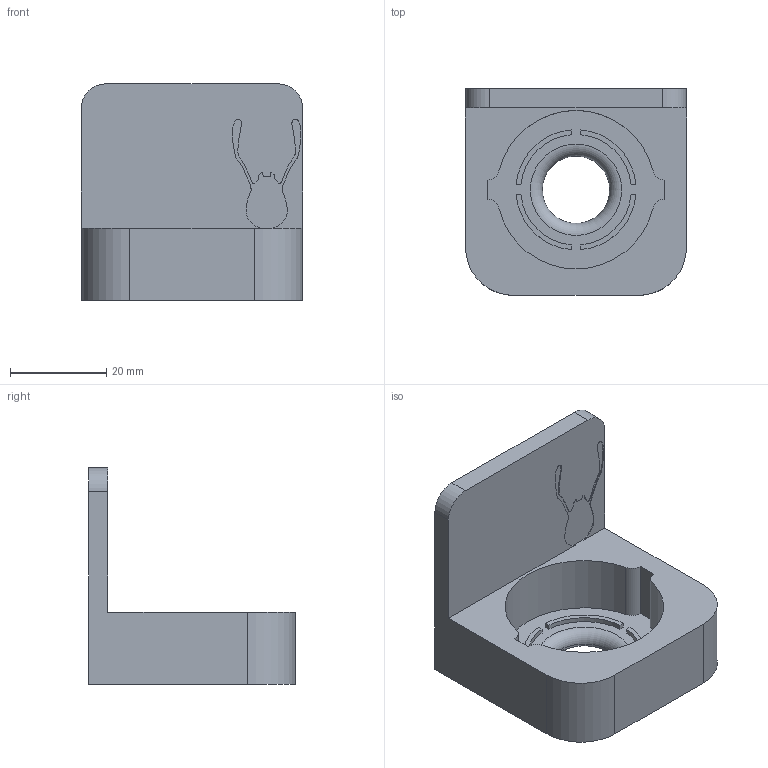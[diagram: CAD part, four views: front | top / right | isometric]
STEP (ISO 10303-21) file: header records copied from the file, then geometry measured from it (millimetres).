
FILE_DESCRIPTION(/* description */ (''),/* implementation_level */ '2;1');
FILE_NAME(/* name */ 'E:/Downloads/Cap Feeder v3.step',/* time_stamp */ '2022-09-15T19:43:33-04:00',/* author */ (''),/* organization */ (''),/* preprocessor_version */ 'ST-DEVELOPER v19',/* originating_system */ 'Autodesk Translation Framework v11.7.0.108',/* authorisation */ '');
FILE_SCHEMA (('AUTOMOTIVE_DESIGN { 1 0 10303 214 3 1 1 }'));
Length unit declared in the file: millimetre
Products named in the file (1): Cap Feeder
Bounding box: 46 x 43 x 45 mm (x, y, z)
Volume: 23525.9 mm3; surface area: 10626.2 mm2
Topology: 1 solids, 1 shells, 112 faces, 314 edges, 209 vertices
Faces by surface type: bspline 60, plane 32, cylinder 19, torus 1
Full cylindrical faces by diameter (mm): 14 x1
Entity records: 3786 total; most frequent: CARTESIAN_POINT 1412, ORIENTED_EDGE 628, DIRECTION 340, EDGE_CURVE 314, VERTEX_POINT 209, LINE 154, VECTOR 154, EDGE_LOOP 119
